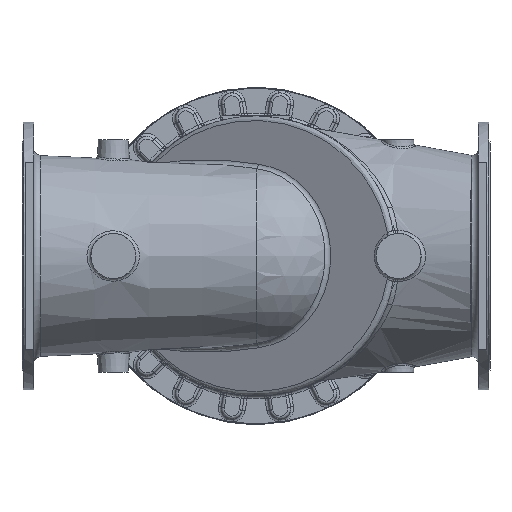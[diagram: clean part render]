
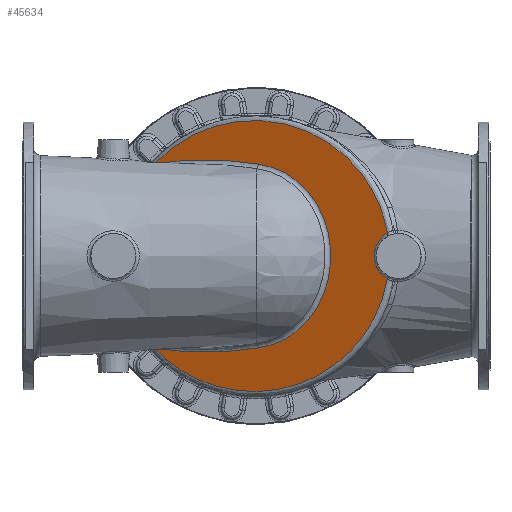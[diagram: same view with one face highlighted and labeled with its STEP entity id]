
A CAD part, front view. The second image highlights one B-rep face of the part: STEP entity #45634.
In plain terms, the highlighted planar face has unit normal (-0.479, -0.877, 0).
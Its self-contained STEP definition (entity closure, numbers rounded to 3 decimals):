
#44=ELLIPSE('',#48967,79.77,70.);
#46=ELLIPSE('',#48969,412.527,362.);
#47=ELLIPSE('',#48975,539.031,257.309);
#48=ELLIPSE('',#48977,539.031,257.309);
#49=ELLIPSE('',#48978,412.527,362.);
#8164=FACE_OUTER_BOUND('',#11109,.T.);
#11109=EDGE_LOOP('',(#32291,#32292,#32293,#32294,#32295,#32296));
#14084=CIRCLE('',#48976,246.599);
#17951=VERTEX_POINT('',#80130);
#17954=VERTEX_POINT('',#80206);
#17955=VERTEX_POINT('',#80426);
#17959=VERTEX_POINT('',#80831);
#17960=VERTEX_POINT('',#80833);
#17961=VERTEX_POINT('',#80835);
#23291=EDGE_CURVE('',#17951,#17954,#44,.T.);
#23295=EDGE_CURVE('',#17955,#17951,#46,.T.);
#23303=EDGE_CURVE('',#17959,#17955,#47,.T.);
#23304=EDGE_CURVE('',#17960,#17959,#14084,.T.);
#23305=EDGE_CURVE('',#17961,#17960,#48,.T.);
#23306=EDGE_CURVE('',#17954,#17961,#49,.T.);
#32291=ORIENTED_EDGE('',*,*,#23291,.F.);
#32292=ORIENTED_EDGE('',*,*,#23295,.F.);
#32293=ORIENTED_EDGE('',*,*,#23303,.F.);
#32294=ORIENTED_EDGE('',*,*,#23304,.F.);
#32295=ORIENTED_EDGE('',*,*,#23305,.F.);
#32296=ORIENTED_EDGE('',*,*,#23306,.F.);
#44064=PLANE('',#48974);
#45634=ADVANCED_FACE('',(#8164),#44064,.F.);
#48967=AXIS2_PLACEMENT_3D('',#80286,#56820,#56821);
#48969=AXIS2_PLACEMENT_3D('',#80433,#56824,#56825);
#48974=AXIS2_PLACEMENT_3D('',#80830,#56836,#56837);
#48975=AXIS2_PLACEMENT_3D('',#80832,#56838,#56839);
#48976=AXIS2_PLACEMENT_3D('',#80834,#56840,#56841);
#48977=AXIS2_PLACEMENT_3D('',#80836,#56842,#56843);
#48978=AXIS2_PLACEMENT_3D('',#80837,#56844,#56845);
#56820=DIRECTION('center_axis',(-0.48,-0.878,0.));
#56821=DIRECTION('ref_axis',(-0.878,0.48,0.));
#56824=DIRECTION('center_axis',(0.48,0.878,0.));
#56825=DIRECTION('ref_axis',(0.878,-0.48,0.));
#56836=DIRECTION('center_axis',(0.48,0.878,0.));
#56837=DIRECTION('ref_axis',(0.,0.,1.));
#56838=DIRECTION('center_axis',(-0.48,-0.878,0.));
#56839=DIRECTION('ref_axis',(-0.878,0.48,0.));
#56840=DIRECTION('center_axis',(-0.48,-0.878,0.));
#56841=DIRECTION('ref_axis',(0.878,-0.48,0.));
#56842=DIRECTION('center_axis',(-0.48,-0.878,0.));
#56843=DIRECTION('ref_axis',(-0.878,0.48,0.));
#56844=DIRECTION('center_axis',(0.48,0.878,0.));
#56845=DIRECTION('ref_axis',(0.878,-0.48,0.));
#80130=CARTESIAN_POINT('',(351.103,-231.523,60.798));
#80206=CARTESIAN_POINT('',(351.103,-231.523,-60.798));
#80286=CARTESIAN_POINT('Origin',(385.795,-250.481,0.));
#80426=CARTESIAN_POINT('',(-270.546,108.196,246.839));
#80433=CARTESIAN_POINT('Origin',(-5.755,-36.507,0.));
#80830=CARTESIAN_POINT('Origin',(-364.111,159.327,0.));
#80831=CARTESIAN_POINT('',(6.589,-43.253,245.169));
#80832=CARTESIAN_POINT('Origin',(-136.988,35.209,0.));
#80833=CARTESIAN_POINT('',(6.589,-43.253,-245.169));
#80834=CARTESIAN_POINT('Origin',(-16.686,-30.533,0.));
#80835=CARTESIAN_POINT('',(-270.546,108.196,-246.839));
#80836=CARTESIAN_POINT('Origin',(-136.988,35.209,0.));
#80837=CARTESIAN_POINT('Origin',(-5.755,-36.507,0.));
